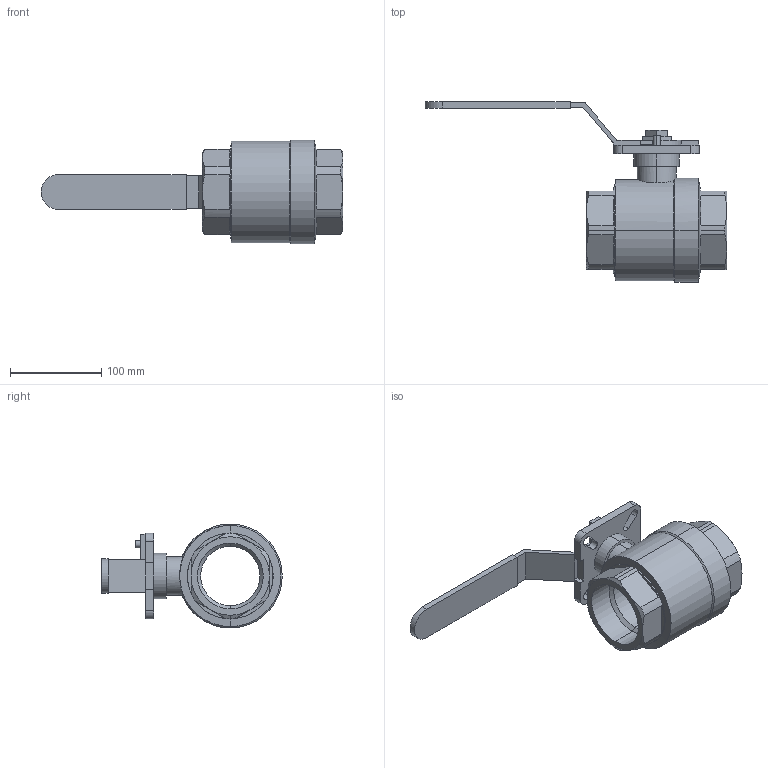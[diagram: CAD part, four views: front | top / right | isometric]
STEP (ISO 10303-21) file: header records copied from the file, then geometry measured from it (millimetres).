
FILE_DESCRIPTION (( 'STEP AP203' ), '1' );
FILE_NAME ('B3.622I065IFVPB0.STEP', '2018-09-28T15:09:03', ( '' ), ( '' ), 'SwSTEP 2.0', 'SolidWorks 2014', '' );
FILE_SCHEMA (( 'CONFIG_CONTROL_DESIGN' ));
Length unit declared in the file: millimetre
Products named in the file (1): B3.622I065IFVPB0
Bounding box: 331 x 198 x 114 mm (x, y, z)
Volume: 937407.5 mm3; surface area: 145285.7 mm2
Topology: 1 solids, 1 shells, 150 faces, 388 edges, 247 vertices
Faces by surface type: plane 82, cylinder 43, cone 25
Entity records: 4864 total; most frequent: CARTESIAN_POINT 1076, ORIENTED_EDGE 776, DIRECTION 771, EDGE_CURVE 388, AXIS2_PLACEMENT_3D 268, VERTEX_POINT 247, VECTOR 235, LINE 235
